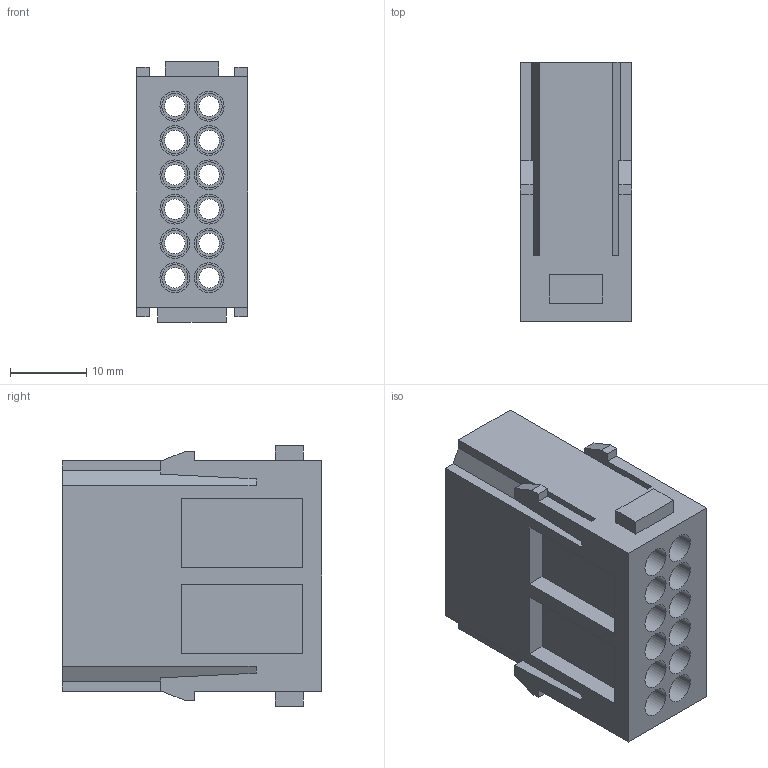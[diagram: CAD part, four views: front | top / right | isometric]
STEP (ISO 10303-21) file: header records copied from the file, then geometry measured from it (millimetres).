
FILE_DESCRIPTION (( 'STEP AP203' ), '1' );
FILE_NAME ('352184.STEP', '2025-06-27T12:18:38', ( '' ), ( '' ), 'SwSTEP 2.0', 'SolidWorks 2018', '' );
FILE_SCHEMA (( 'CONFIG_CONTROL_DESIGN' ));
Length unit declared in the file: millimetre
Products named in the file (1): 352184
Bounding box: 14.6 x 34 x 34.2 mm (x, y, z)
Volume: 7043.2 mm3; surface area: 8280.9 mm2
Topology: 1 solids, 1 shells, 195 faces, 486 edges, 324 vertices
Faces by surface type: plane 115, cylinder 80
Entity records: 5965 total; most frequent: DIRECTION 1038, CARTESIAN_POINT 1006, ORIENTED_EDGE 972, EDGE_CURVE 486, AXIS2_PLACEMENT_3D 356, VECTOR 326, LINE 326, VERTEX_POINT 324
